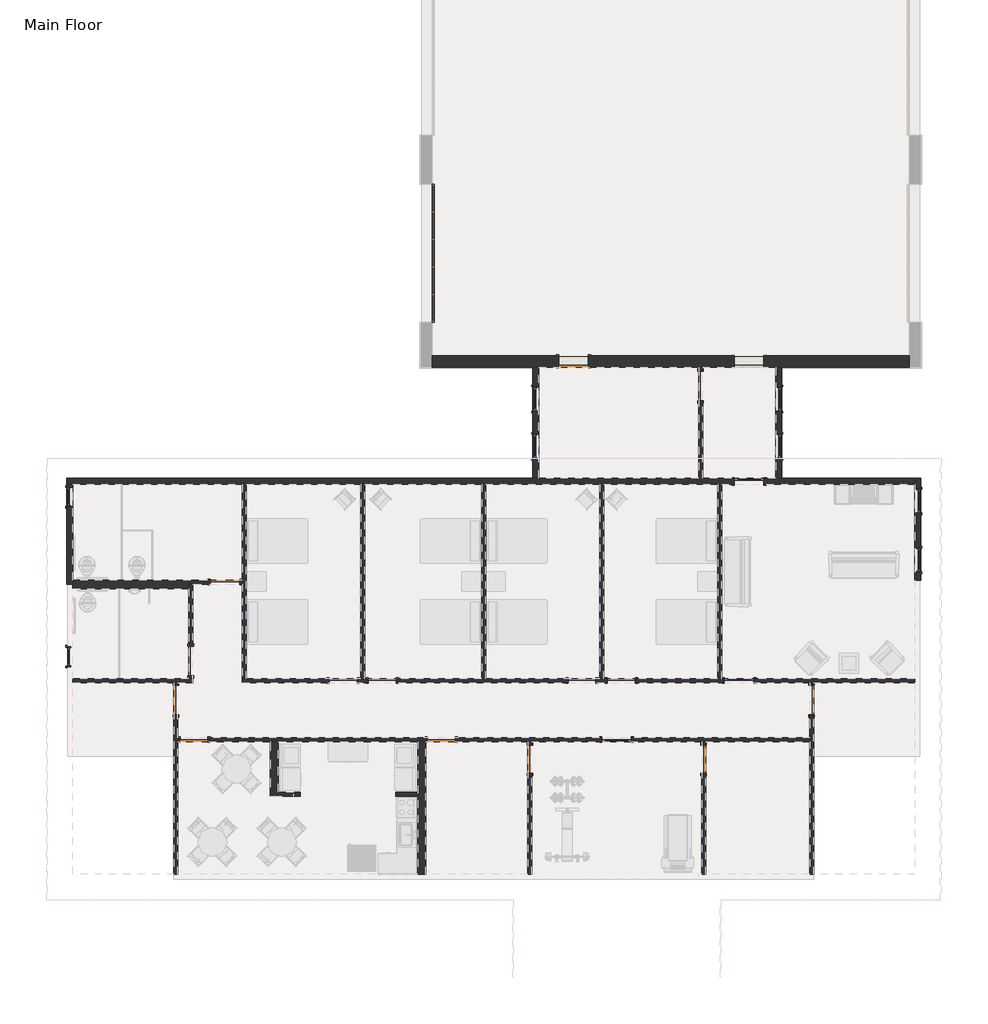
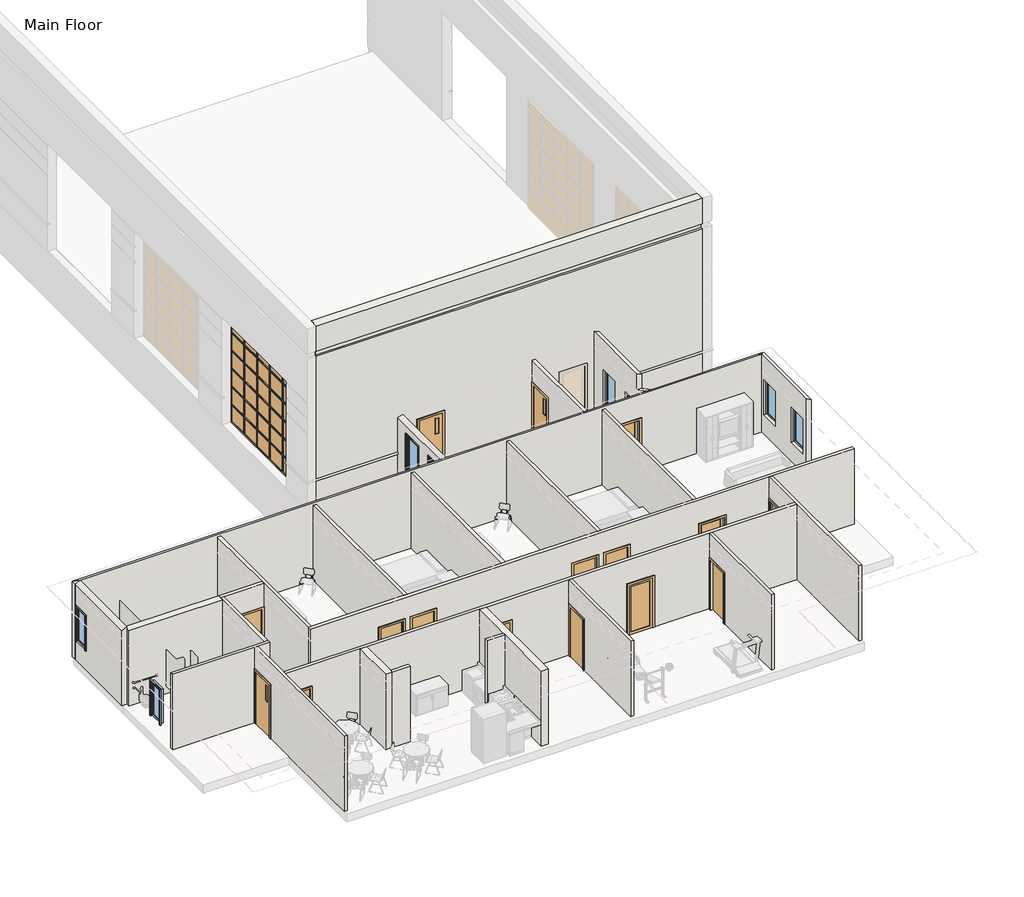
# One storey, part 1 of 3: 27 walls, 18 doors, 8 windows.
"""IFC4 building model written with IfcOpenShell, lengths in millimetres."""

from ifc_helpers import new_model, si_unit, frame, origin, place, context, project, spatial, polyline, outline, extrude, faceted_brep, transform, mapped, element, save
from components import overhead_sectional_glass_14_x_14_50861e5d, door_ecd1ec3f, door_2f6dbc15, door_7c9e1b45, door_3b0d1d25, door_0f3f7c0c, door_43f271b1, door_d6ecde1c, door_2a3d4b99, door_1467a2ec, door_29a6ff79, door_8812bb35, door_9b494dca, window_0248c27b, window_3b8f106a

model = new_model("IFC4")

# Units and contexts
model_context = context("Model", 3, world=origin())
ifc_project = project(units=[si_unit("LENGTHUNIT", "METRE", prefix="MILLI")], contexts=[model_context])

# Site, building, storey
site = spatial("IfcSite", under=ifc_project)
building = spatial("IfcBuilding", under=site)
storey = spatial("IfcBuildingStorey", under=building, Name="Main Floor", Elevation=42672.0)

# Doors
placement = place(None, origin())
overhead_sectional_glass_14_x_14_shape = overhead_sectional_glass_14_x_14_50861e5d(model_context)
element("IfcDoor", 1, ObjectType="Overhead-Sectional Glass : 14' x 14'", at=placement, inside=storey, context=model_context, shape_type="MappedRepresentation", body=[
    mapped(overhead_sectional_glass_14_x_14_shape, transform((-14673.2917336, 3387.6480156, 42672.0), x_axis=(0.0, -1.0, 0.0), y_axis=(1.0, 0.0, 0.0), z_axis=(0.0, 0.0, 1.0))),
])
door_shape = door_ecd1ec3f(model_context)
element("IfcDoor", 2, ObjectType="Single-Flush : 34\" x 80\"", at=placement, inside=storey, context=model_context, shape_type="MappedRepresentation", body=[
    mapped(door_shape, transform((-11472.8917336, -12298.4394844, 42672.0), x_axis=(0.0, 1.0, 0.0), y_axis=(-1.0, 0.0, 0.0), z_axis=(0.0, 0.0, 1.0))),
])
door_2_shape = door_2f6dbc15(model_context)
element("IfcDoor", 3, ObjectType="Single-Flush : 34\" x 80\"", at=placement, inside=storey, context=model_context, shape_type="MappedRepresentation", body=[
    mapped(door_2_shape, transform((-6088.0917336, -12298.4394844, 42672.0), x_axis=(0.0, 1.0, 0.0), y_axis=(-1.0, 0.0, 0.0), z_axis=(0.0, 0.0, 1.0))),
])
door_3_shape = door_7c9e1b45(model_context)
element("IfcDoor", 4, ObjectType="Single-Flush : 34\" x 84\"", at=placement, inside=storey, context=model_context, shape_type="MappedRepresentation", body=[
    mapped(door_3_shape, transform((-21886.8917336, -11688.8394844, 42672.0), x_axis=(-1.0, 0.0, 0.0), y_axis=(0.0, -1.0, 0.0), z_axis=(0.0, 0.0, 1.0))),
])
element("IfcDoor", 5, ObjectType="Single-Flush : 34\" x 84\"", at=placement, inside=storey, context=model_context, shape_type="MappedRepresentation", body=[
    mapped(door_3_shape, transform((-17264.0917336, -9860.0394844, 42672.0), x_axis=(1.0, 0.0, 0.0), y_axis=(0.0, 1.0, 0.0), z_axis=(0.0, 0.0, 1.0))),
])
element("IfcDoor", 6, ObjectType="Single-Flush : 34\" x 84\"", at=placement, inside=storey, context=model_context, shape_type="MappedRepresentation", body=[
    mapped(door_3_shape, transform((-9858.4042336, -9860.0394844, 42672.0), x_axis=(1.0, 0.0, 0.0), y_axis=(0.0, 1.0, 0.0), z_axis=(0.0, 0.0, 1.0))),
])
element("IfcDoor", 7, ObjectType="Single-Flush : 34\" x 84\"", at=placement, inside=storey, context=model_context, shape_type="MappedRepresentation", body=[
    mapped(door_3_shape, transform((-14216.0917336, -11688.8394844, 42672.0), x_axis=(-1.0, 0.0, 0.0), y_axis=(0.0, -1.0, 0.0), z_axis=(0.0, 0.0, 1.0))),
])
door_4_shape = door_3b0d1d25(model_context)
element("IfcDoor", 8, ObjectType="Single-Flush : 34\" x 84\"", at=placement, inside=storey, context=model_context, shape_type="MappedRepresentation", body=[
    mapped(door_4_shape, transform((-16044.8917336, -9860.0394844, 42672.0), x_axis=(-1.0, 0.0, 0.0), y_axis=(0.0, -1.0, 0.0), z_axis=(0.0, 0.0, 1.0))),
])
element("IfcDoor", 9, ObjectType="Single-Flush : 34\" x 84\"", at=placement, inside=storey, context=model_context, shape_type="MappedRepresentation", body=[
    mapped(door_4_shape, transform((-8639.2042336, -9860.0394844, 42672.0), x_axis=(-1.0, 0.0, 0.0), y_axis=(0.0, -1.0, 0.0), z_axis=(0.0, 0.0, 1.0))),
])
door_5_shape = door_0f3f7c0c(model_context)
element("IfcDoor", 10, ObjectType="Single-Flush : 36\" x 80\"", at=placement, inside=storey, context=model_context, shape_type="MappedRepresentation", body=[
    mapped(door_5_shape, transform((-21988.4917336, -9250.4394844, 42672.0), x_axis=(0.0, -1.0, 0.0), y_axis=(1.0, 0.0, 0.0), z_axis=(0.0, 0.0, 1.0))),
])
door_6_shape = door_43f271b1(model_context)
element("IfcDoor", 11, ObjectType="Single-Flush : 36\" x 80\"", at=placement, inside=storey, context=model_context, shape_type="MappedRepresentation", body=[
    mapped(door_6_shape, transform((-20921.6917336, -6808.8644844, 42672.0), x_axis=(1.0, 0.0, 0.0), y_axis=(0.0, 1.0, 0.0), z_axis=(0.0, 0.0, 1.0))),
])
door_7_shape = door_d6ecde1c(model_context)
element("IfcDoor", 12, ObjectType="Single-Flush Vision : 36\" x 84\"", at=placement, inside=storey, context=model_context, shape_type="MappedRepresentation", body=[
    mapped(door_7_shape, transform((-10120.3417336, 34.8480156, 42672.0), x_axis=(-1.0, 0.0, 0.0), y_axis=(0.0, -1.0, 0.0), z_axis=(0.0, 0.0, 1.0))),
])
door_8_shape = door_2a3d4b99(model_context)
element("IfcDoor", 13, ObjectType="Single-Flush Vision : 36\" x 84\"", at=placement, inside=storey, context=model_context, shape_type="MappedRepresentation", body=[
    mapped(door_8_shape, transform((-22445.6917336, -10469.6394844, 42672.0), x_axis=(0.0, 1.0, 0.0), y_axis=(-1.0, 0.0, 0.0), z_axis=(0.0, 0.0, 1.0))),
])
element("IfcDoor", 14, ObjectType="Single-Flush Vision : 36\" x 84\"", at=placement, inside=storey, context=model_context, shape_type="MappedRepresentation", body=[
    mapped(door_8_shape, transform((-6181.7542336, -727.1519844, 42672.0), x_axis=(0.0, 1.0, 0.0), y_axis=(-1.0, 0.0, 0.0), z_axis=(0.0, 0.0, 1.0))),
])
door_9_shape = door_1467a2ec(model_context)
element("IfcDoor", 15, ObjectType="Single-Flush Vision : 36\" x 84\"", at=placement, inside=storey, context=model_context, shape_type="MappedRepresentation", body=[
    mapped(door_9_shape, transform((-2735.2917336, -10469.6394844, 42672.0), x_axis=(0.0, 1.0, 0.0), y_axis=(-1.0, 0.0, 0.0), z_axis=(0.0, 0.0, 1.0))),
])
door_10_shape = door_29a6ff79(model_context)
element("IfcDoor", 16, ObjectType="Single-Glass 1 : 36\" x 80\"", at=placement, inside=storey, context=model_context, shape_type="MappedRepresentation", body=[
    mapped(door_10_shape, transform((-8780.4917336, -11688.8394844, 42672.0), x_axis=(-1.0, 0.0, 0.0), y_axis=(0.0, -1.0, 0.0), z_axis=(0.0, 0.0, 1.0))),
])
door_11_shape = door_8812bb35(model_context)
element("IfcDoor", 17, ObjectType="Single-Glass 1 : 36\" x 80\"", at=placement, inside=storey, context=model_context, shape_type="MappedRepresentation", body=[
    mapped(door_11_shape, transform((-4981.6042336, -9860.0394844, 42672.0), x_axis=(-1.0, 0.0, 0.0), y_axis=(0.0, -1.0, 0.0), z_axis=(0.0, 0.0, 1.0))),
])
door_12_shape = door_9b494dca(model_context)
element("IfcDoor", 18, ObjectType="Single-Glass 1 : 36\" x 84\"", at=placement, inside=storey, context=model_context, shape_type="MappedRepresentation", body=[
    mapped(door_12_shape, transform((-4676.8042336, -3684.6644844, 42672.0), x_axis=(-1.0, 0.0, 0.0), y_axis=(0.0, -1.0, 0.0), z_axis=(0.0, 0.0, 1.0))),
])

# Walls
element("IfcWall", 19, ObjectType="Exterior - Brick & CMU - No Reveals", at=placement, inside=storey, context=model_context, shape_type="Brep", body=[
    faceted_brep([(-14497.0792336, 211.0605156, 49987.2), (288.8957664, 211.0605156, 49987.2), (288.8957664, 211.0605156, 49314.1), (-14497.0792336, 211.0605156, 49314.1), (288.8957664, 211.0605156, 42672.0), (-4219.6042336, 211.0605156, 42672.0), (-4219.6042336, 211.0605156, 44805.6), (-5134.0042336, 211.0605156, 44805.6), (-5134.0042336, 211.0605156, 42672.0), (-9663.1417336, 211.0605156, 42672.0), (-9663.1417336, 211.0605156, 44805.6), (-10577.5417336, 211.0605156, 44805.6), (-10577.5417336, 211.0605156, 42672.0), (-14497.0792336, 211.0605156, 42672.0), (-14497.0792336, 211.0605156, 48768.0), (288.8957664, 211.0605156, 48768.0), (288.8957664, -141.3644844, 49987.2), (-14497.0792336, -141.3644844, 49987.2), (-14497.0792336, -141.3644844, 48971.2), (288.8957664, -141.3644844, 48971.2), (-4219.6042336, -141.3644844, 42672.0), (-3856.0667336, -141.3644844, 42672.0), (-3668.7417336, -141.3644844, 42672.0), (288.8957664, -141.3644844, 42672.0), (288.8957664, -141.3644844, 43738.8), (-3668.7417336, -141.3644844, 43738.8), (-3668.7417336, -141.3644844, 43808.65), (288.8957664, -141.3644844, 43808.65), (288.8957664, -141.3644844, 48768.0), (-14497.0792336, -141.3644844, 48768.0), (-14497.0792336, -141.3644844, 43808.65), (-11379.2292336, -141.3644844, 43808.65), (-11379.2292336, -141.3644844, 43738.8), (-14497.0792336, -141.3644844, 43738.8), (-14497.0792336, -141.3644844, 42672.0), (-11379.2292336, -141.3644844, 42672.0), (-11191.9042336, -141.3644844, 42672.0), (-10577.5417336, -141.3644844, 42672.0), (-10577.5417336, -141.3644844, 44805.6), (-9663.1417336, -141.3644844, 44805.6), (-9663.1417336, -141.3644844, 42672.0), (-6243.6667336, -141.3644844, 42672.0), (-6119.8417336, -141.3644844, 42672.0), (-5134.0042336, -141.3644844, 42672.0), (-5134.0042336, -141.3644844, 44805.6), (-4219.6042336, -141.3644844, 44805.6), (-14497.0792336, 45.9605156, 49314.1), (-14497.0792336, 45.9605156, 48768.0), (-14497.0792336, -49.2894844, 42672.0), (-14497.0792336, -49.2894844, 43738.8), (-14497.0792336, -49.2894844, 43808.65), (-14497.0792336, -65.1644844, 48768.0), (-14497.0792336, -65.1644844, 48971.2), (288.8957664, -65.1644844, 48971.2), (288.8957664, -65.1644844, 48768.0), (288.8957664, -49.2894844, 43808.65), (288.8957664, -49.2894844, 43738.8), (288.8957664, -49.2894844, 42672.0), (288.8957664, 45.9605156, 48768.0), (288.8957664, 45.9605156, 49314.1), (-10577.5417336, -49.2894844, 42672.0), (-4219.6042336, -49.2894844, 42672.0), (-5134.0042336, -49.2894844, 42672.0), (-9663.1417336, -49.2894844, 42672.0), (-3668.7417336, -49.2894844, 43808.65), (-3668.7417336, -49.2894844, 43738.8), (-11379.2292336, -49.2894844, 43808.65), (-11379.2292336, -49.2894844, 43738.8)], [[[0, 1, 2, 3]], [[4, 5, 6, 7, 8, 9, 10, 11, 12, 13, 14, 15]], [[16, 17, 18, 19]], [[20, 21, 22, 23, 24, 25, 26, 27, 28, 29, 30, 31, 32, 33, 34, 35, 36, 37, 38, 39, 40, 41, 42, 43, 44, 45]], [[1, 0, 17, 16]], [[17, 0, 3, 46, 47, 14, 13, 48, 34, 33, 49, 50, 30, 29, 51, 52, 18]], [[1, 16, 19, 53, 54, 28, 27, 55, 56, 24, 23, 57, 4, 15, 58, 59, 2]], [[48, 13, 12, 60]], [[4, 57, 61, 5]], [[8, 62, 63, 9]], [[57, 23, 22, 21, 20, 61]], [[34, 48, 60, 37, 36, 35]], [[62, 43, 42, 41, 40, 63]], [[45, 6, 5, 61, 20]], [[6, 45, 44, 7]], [[7, 44, 43, 62, 8]], [[11, 38, 37, 60, 12]], [[38, 11, 10, 39]], [[39, 10, 9, 63, 40]], [[54, 51, 29, 28]], [[52, 53, 19, 18]], [[53, 52, 51, 54]], [[26, 64, 55, 27]], [[65, 25, 24, 56]], [[64, 26, 25, 65]], [[64, 65, 56, 55]], [[31, 66, 67, 32]], [[66, 31, 30, 50]], [[67, 49, 33, 32]], [[67, 66, 50, 49]], [[59, 46, 3, 2]], [[47, 58, 15, 14]], [[46, 59, 58, 47]]]),
])
element("IfcWall", 20, ObjectType="Exterior - Siding", at=placement, inside=storey, context=model_context, shape_type="Brep", body=[
    faceted_brep([(-25830.2417336, -3778.3269844, 42672.0), (-25642.9167336, -3778.3269844, 42672.0), (-20385.1167336, -3778.3269844, 42672.0), (-20261.2917336, -3778.3269844, 42672.0), (-16716.4042336, -3778.3269844, 42672.0), (-16592.5792336, -3778.3269844, 42672.0), (-12968.3167336, -3778.3269844, 42672.0), (-12844.4917336, -3778.3269844, 42672.0), (-9310.7167336, -3778.3269844, 42672.0), (-9186.8917336, -3778.3269844, 42672.0), (-5653.1167336, -3778.3269844, 42672.0), (-5529.2917336, -3778.3269844, 42672.0), (-5134.0042336, -3778.3269844, 42672.0), (-5134.0042336, -3778.3269844, 44805.6), (-4219.6042336, -3778.3269844, 44805.6), (-4219.6042336, -3778.3269844, 42672.0), (461.9332664, -3778.3269844, 42672.0), (461.9332664, -3778.3269844, 45813.6625), (-25642.9167336, -3778.3269844, 45813.6625), (-25830.2417336, -3778.3269844, 45720.0), (-5134.0042336, -3591.0019844, 44805.6), (-5134.0042336, -3591.0019844, 42672.0), (-6119.8417336, -3591.0019844, 42672.0), (-6243.6667336, -3591.0019844, 42672.0), (-11191.9042336, -3591.0019844, 42672.0), (-11379.2292336, -3591.0019844, 42672.0), (-25830.2417336, -3591.0019844, 42672.0), (-25830.2417336, -3591.0019844, 45720.0), (-3856.0667336, -3591.0019844, 45720.0), (-3668.7417336, -3591.0019844, 45720.0), (461.9332664, -3591.0019844, 45720.0), (461.9332664, -3591.0019844, 42672.0), (-3668.7417336, -3591.0019844, 42672.0), (-3856.0667336, -3591.0019844, 42672.0), (-4219.6042336, -3591.0019844, 42672.0), (-4219.6042336, -3591.0019844, 44805.6)], [[[0, 1, 2, 3, 4, 5, 6, 7, 8, 9, 10, 11, 12, 13, 14, 15, 16, 17, 18, 19]], [[20, 21, 22, 23, 24, 25, 26, 27, 28, 29, 30, 31, 32, 33, 34, 35]], [[26, 25, 24, 23, 22, 21, 12, 11, 10, 9, 8, 7, 6, 5, 4, 3, 2, 1, 0]], [[34, 33, 32, 31, 16, 15]], [[0, 19, 27, 26]], [[17, 16, 31, 30]], [[19, 18, 27]], [[18, 17, 30, 29, 28, 27]], [[13, 12, 21, 20]], [[14, 13, 20, 35]], [[15, 14, 35, 34]]]),
])
element("IfcWall", 21, ObjectType="Exterior - Siding", at=placement, inside=storey, context=model_context, shape_type="Brep", body=[
    faceted_brep([(461.9332664, -3591.0019844, 42672.0), (461.9332664, -3778.3269844, 42672.0), (461.9332664, -6746.9519844, 42672.0), (461.9332664, -6746.9519844, 45813.6625), (461.9332664, -3778.3269844, 45813.6625), (461.9332664, -3591.0019844, 45720.0), (461.9332664, -4675.2644844, 44869.1), (461.9332664, -4675.2644844, 43453.05), (461.9332664, -3913.2644844, 43453.05), (461.9332664, -3913.2644844, 44869.1), (461.9332664, -6504.0644844, 44869.1), (461.9332664, -6504.0644844, 43453.05), (461.9332664, -5742.0644844, 43453.05), (461.9332664, -5742.0644844, 44869.1), (649.2582664, -3591.0019844, 42672.0), (649.2582664, -3591.0019844, 45720.0), (649.2582664, -6746.9519844, 45720.0), (649.2582664, -6746.9519844, 42672.0), (649.2582664, -4675.2644844, 44869.1), (649.2582664, -3913.2644844, 44869.1), (649.2582664, -3913.2644844, 43453.05), (649.2582664, -4675.2644844, 43453.05), (649.2582664, -6504.0644844, 44869.1), (649.2582664, -5742.0644844, 44869.1), (649.2582664, -5742.0644844, 43453.05), (649.2582664, -6504.0644844, 43453.05)], [[[0, 1, 2, 3, 4, 5], [6, 7, 8, 9], [10, 11, 12, 13]], [[14, 15, 16, 17], [18, 19, 20, 21], [22, 23, 24, 25]], [[2, 1, 0, 14, 17]], [[3, 2, 17, 16]], [[0, 5, 15, 14]], [[5, 4, 15]], [[4, 3, 16, 15]], [[7, 6, 18, 21]], [[8, 7, 21, 20]], [[9, 8, 20, 19]], [[6, 9, 19, 18]], [[11, 10, 22, 25]], [[12, 11, 25, 24]], [[13, 12, 24, 23]], [[10, 13, 23, 22]]]),
])
element("IfcWall", 22, ObjectType="Exterior - Siding", at=placement, inside=storey, context=model_context, shape_type="Brep", body=[
    faceted_brep([(-25642.9167336, -6877.1269844, 42672.0), (-25642.9167336, -6746.9519844, 42672.0), (-25642.9167336, -3778.3269844, 42672.0), (-25642.9167336, -3778.3269844, 45813.6625), (-25642.9167336, -6877.1269844, 45813.6625), (-25642.9167336, -3859.2894844, 44869.1), (-25642.9167336, -3859.2894844, 43453.05), (-25642.9167336, -4468.8894844, 43453.05), (-25642.9167336, -4468.8894844, 44869.1), (-25830.2417336, -6877.1269844, 42672.0), (-25830.2417336, -6877.1269844, 45720.0), (-25830.2417336, -3778.3269844, 45720.0), (-25830.2417336, -3778.3269844, 42672.0), (-25830.2417336, -3859.2894844, 44869.1), (-25830.2417336, -4468.8894844, 44869.1), (-25830.2417336, -4468.8894844, 43453.05), (-25830.2417336, -3859.2894844, 43453.05)], [[[0, 1, 2, 3, 4], [5, 6, 7, 8]], [[9, 10, 11, 12], [13, 14, 15, 16]], [[2, 1, 0, 9, 12]], [[0, 4, 10, 9]], [[3, 2, 12, 11]], [[4, 3, 11, 10]], [[6, 5, 13, 16]], [[7, 6, 16, 15]], [[8, 7, 15, 14]], [[5, 8, 14, 13]]]),
])
element("IfcWall", 23, ObjectType="Exterior - Siding", at=placement, inside=storey, context=model_context, shape_type="Brep", body=[
    faceted_brep([(-11191.9042336, -3591.0019844, 42672.0), (-11191.9042336, -141.3644844, 42672.0), (-11191.9042336, -141.3644844, 45263.215222), (-11191.9042336, -3591.0019844, 45263.215222), (-11191.9042336, -2219.4019844, 44869.1), (-11191.9042336, -2219.4019844, 43453.05), (-11191.9042336, -2981.4019844, 43453.05), (-11191.9042336, -2981.4019844, 44869.1), (-11191.9042336, -750.9644844, 44869.1), (-11191.9042336, -750.9644844, 43453.05), (-11191.9042336, -1512.9644844, 43453.05), (-11191.9042336, -1512.9644844, 44869.1), (-11379.2292336, -141.3644844, 42672.0), (-11379.2292336, -3591.0019844, 42672.0), (-11379.2292336, -3591.0019844, 45197.5831052), (-11379.2292336, -141.3644844, 45197.5831052), (-11379.2292336, -141.3644844, 43808.65), (-11379.2292336, -141.3644844, 43738.8), (-11379.2292336, -2219.4019844, 43453.05), (-11379.2292336, -2219.4019844, 44869.1), (-11379.2292336, -2981.4019844, 44869.1), (-11379.2292336, -2981.4019844, 43453.05), (-11379.2292336, -750.9644844, 43453.05), (-11379.2292336, -750.9644844, 44869.1), (-11379.2292336, -1512.9644844, 44869.1), (-11379.2292336, -1512.9644844, 43453.05)], [[[0, 1, 2, 3], [4, 5, 6, 7], [8, 9, 10, 11]], [[12, 13, 14, 15, 16, 17], [18, 19, 20, 21], [22, 23, 24, 25]], [[1, 0, 13, 12]], [[0, 3, 14, 13]], [[2, 1, 12, 17, 16, 15]], [[3, 2, 15, 14]], [[4, 19, 18, 5]], [[5, 18, 21, 6]], [[6, 21, 20, 7]], [[19, 4, 7, 20]], [[8, 23, 22, 9]], [[9, 22, 25, 10]], [[10, 25, 24, 11]], [[23, 8, 11, 24]]]),
])
element("IfcWall", 24, ObjectType="Exterior - Siding", at=placement, inside=storey, context=model_context, shape_type="Brep", body=[
    faceted_brep([(-3856.0667336, -141.3644844, 42672.0), (-3856.0667336, -3591.0019844, 42672.0), (-3856.0667336, -3591.0019844, 45720.0), (-3856.0667336, -2981.4019844, 45415.2), (-3856.0667336, -2981.4019844, 46059.4130715), (-3856.0667336, -141.3644844, 46059.4130715), (-3856.0667336, -2981.4019844, 44869.1), (-3856.0667336, -2981.4019844, 43453.05), (-3856.0667336, -2219.4019844, 43453.05), (-3856.0667336, -2219.4019844, 44869.1), (-3856.0667336, -1512.9644844, 44869.1), (-3856.0667336, -1512.9644844, 43453.05), (-3856.0667336, -750.9644844, 43453.05), (-3856.0667336, -750.9644844, 44869.1), (-3668.7417336, -3591.0019844, 42672.0), (-3668.7417336, -141.3644844, 42672.0), (-3668.7417336, -141.3644844, 43738.8), (-3668.7417336, -141.3644844, 43808.65), (-3668.7417336, -141.3644844, 45982.5207145), (-3668.7417336, -2981.4019844, 45982.5207145), (-3668.7417336, -2981.4019844, 45415.2), (-3668.7417336, -3591.0019844, 45720.0), (-3668.7417336, -2981.4019844, 43453.05), (-3668.7417336, -2981.4019844, 44869.1), (-3668.7417336, -2219.4019844, 44869.1), (-3668.7417336, -2219.4019844, 43453.05), (-3668.7417336, -1512.9644844, 43453.05), (-3668.7417336, -1512.9644844, 44869.1), (-3668.7417336, -750.9644844, 44869.1), (-3668.7417336, -750.9644844, 43453.05)], [[[0, 1, 2, 3, 4, 5], [6, 7, 8, 9], [10, 11, 12, 13]], [[14, 15, 16, 17, 18, 19, 20, 21], [22, 23, 24, 25], [26, 27, 28, 29]], [[1, 0, 15, 14]], [[2, 1, 14, 21]], [[0, 5, 18, 17, 16, 15]], [[4, 3, 20, 19]], [[3, 2, 21, 20]], [[5, 4, 19, 18]], [[6, 23, 22, 7]], [[7, 22, 25, 8]], [[8, 25, 24, 9]], [[23, 6, 9, 24]], [[10, 27, 26, 11]], [[11, 26, 29, 12]], [[12, 29, 28, 13]], [[27, 10, 13, 28]]]),
])
element("IfcWall", 25, ObjectType="Foundation - 12\" Concrete", at=placement, inside=storey, context=model_context, shape_type="Brep", body=[
    faceted_brep([(312.7082664, 187.2480156, 40690.8), (-296.8917336, 187.2480156, 40690.8), (-6799.2917336, 187.2480156, 40690.8), (-7408.8917336, 187.2480156, 40690.8), (-13911.2917336, 187.2480156, 40690.8), (-14520.8917336, 187.2480156, 40690.8), (-14520.8917336, 187.2480156, 42367.2), (-14520.8917336, 187.2480156, 42672.0), (312.7082664, 187.2480156, 42672.0), (312.7082664, 187.2480156, 42367.2), (312.7082664, -117.5519844, 40690.8), (312.7082664, -117.5519844, 42672.0), (-14520.8917336, -117.5519844, 42672.0), (-14520.8917336, -117.5519844, 40690.8)], [[[0, 1, 2, 3, 4, 5, 6, 7, 8, 9]], [[10, 11, 12, 13]], [[5, 4, 3, 2, 1, 0, 10, 13]], [[8, 7, 12, 11]], [[0, 9, 8, 11, 10]], [[7, 6, 5, 13, 12]]]),
])
element("IfcWall", 26, ObjectType="Generic - 5\"", at=placement, inside=storey, context=model_context, shape_type="SweptSolid", body=[
    extrude(outline(polyline([(-15638.4917336, -13327.1394844), (-14955.8667336, -13327.1394844), (-14955.8667336, -13454.1394844), (-15638.4917336, -13454.1394844), (-15638.4917336, -13327.1394844)])), frame((0.0, 0.0, 42672.0), z_axis=(0.0, 0.0, 1.0), x_axis=(1.0, 0.0, 0.0)), (0.0, 0.0, 1.0), 3048.0),
])
element("IfcWall", 27, ObjectType="Interior - 4 7/8\" Partition (1-hr)", at=placement, inside=storey, context=model_context, shape_type="Brep", body=[
    faceted_brep([(-5438.8042336, -9798.1269844, 44704.0), (-5438.8042336, -9798.1269844, 42672.0), (-5529.2917336, -9798.1269844, 42672.0), (-5653.1167336, -9798.1269844, 42672.0), (-8207.4042336, -9798.1269844, 42672.0), (-8207.4042336, -9798.1269844, 44805.6), (-9071.0042336, -9798.1269844, 44805.6), (-9071.0042336, -9798.1269844, 42672.0), (-9186.8917336, -9798.1269844, 42672.0), (-9310.7167336, -9798.1269844, 42672.0), (-9426.6042336, -9798.1269844, 42672.0), (-9426.6042336, -9798.1269844, 44805.6), (-10290.2042336, -9798.1269844, 44805.6), (-10290.2042336, -9798.1269844, 42672.0), (-12844.4917336, -9798.1269844, 42672.0), (-12968.3167336, -9798.1269844, 42672.0), (-15613.0917336, -9798.1269844, 42672.0), (-15613.0917336, -9798.1269844, 44805.6), (-16476.6917336, -9798.1269844, 44805.6), (-16476.6917336, -9798.1269844, 42672.0), (-16592.5792336, -9798.1269844, 42672.0), (-16716.4042336, -9798.1269844, 42672.0), (-16832.2917336, -9798.1269844, 42672.0), (-16832.2917336, -9798.1269844, 44805.6), (-17695.8917336, -9798.1269844, 44805.6), (-17695.8917336, -9798.1269844, 42672.0), (-20261.2917336, -9798.1269844, 42672.0), (-20385.1167336, -9798.1269844, 42672.0), (-20385.1167336, -9798.1269844, 45720.0), (-20261.2917336, -9798.1269844, 45720.0), (-16716.4042336, -9798.1269844, 45720.0), (-16592.5792336, -9798.1269844, 45720.0), (-12968.3167336, -9798.1269844, 45720.0), (-12844.4917336, -9798.1269844, 45720.0), (-9310.7167336, -9798.1269844, 45720.0), (-9186.8917336, -9798.1269844, 45720.0), (-5653.1167336, -9798.1269844, 45720.0), (-5529.2917336, -9798.1269844, 45720.0), (461.9332664, -9798.1269844, 45720.0), (461.9332664, -9798.1269844, 42672.0), (-4524.4042336, -9798.1269844, 42672.0), (-4524.4042336, -9798.1269844, 44704.0), (-8207.4042336, -9921.9519844, 42672.0), (-5438.8042336, -9921.9519844, 42672.0), (-5438.8042336, -9921.9519844, 44704.0), (-4524.4042336, -9921.9519844, 44704.0), (-4524.4042336, -9921.9519844, 42672.0), (-2797.2042336, -9921.9519844, 42672.0), (-2673.3792336, -9921.9519844, 42672.0), (461.9332664, -9921.9519844, 42672.0), (461.9332664, -9921.9519844, 45720.0), (-2673.3792336, -9921.9519844, 45720.0), (-2797.2042336, -9921.9519844, 45720.0), (-20385.1167336, -9921.9519844, 45720.0), (-20385.1167336, -9921.9519844, 42672.0), (-17695.8917336, -9921.9519844, 42672.0), (-17695.8917336, -9921.9519844, 44805.6), (-16832.2917336, -9921.9519844, 44805.6), (-16832.2917336, -9921.9519844, 42672.0), (-16476.6917336, -9921.9519844, 42672.0), (-16476.6917336, -9921.9519844, 44805.6), (-15613.0917336, -9921.9519844, 44805.6), (-15613.0917336, -9921.9519844, 42672.0), (-10290.2042336, -9921.9519844, 42672.0), (-10290.2042336, -9921.9519844, 44805.6), (-9426.6042336, -9921.9519844, 44805.6), (-9426.6042336, -9921.9519844, 42672.0), (-9071.0042336, -9921.9519844, 42672.0), (-9071.0042336, -9921.9519844, 44805.6), (-8207.4042336, -9921.9519844, 44805.6)], [[[0, 1, 2, 3, 4, 5, 6, 7, 8, 9, 10, 11, 12, 13, 14, 15, 16, 17, 18, 19, 20, 21, 22, 23, 24, 25, 26, 27, 28, 29, 30, 31, 32, 33, 34, 35, 36, 37, 38, 39, 40, 41]], [[42, 43, 44, 45, 46, 47, 48, 49, 50, 51, 52, 53, 54, 55, 56, 57, 58, 59, 60, 61, 62, 63, 64, 65, 66, 67, 68, 69]], [[22, 21, 20, 19, 59, 58]], [[55, 54, 27, 26, 25]], [[10, 9, 8, 7, 67, 66]], [[63, 62, 16, 15, 14, 13]], [[4, 3, 2, 1, 43, 42]], [[40, 39, 49, 48, 47, 46]], [[38, 37, 36, 35, 34, 33, 32, 31, 30, 29, 28, 53, 52, 51, 50]], [[28, 27, 54, 53]], [[39, 38, 50, 49]], [[23, 22, 58, 57]], [[24, 23, 57, 56]], [[25, 24, 56, 55]], [[60, 59, 19, 18]], [[61, 60, 18, 17]], [[62, 61, 17, 16]], [[11, 10, 66, 65]], [[12, 11, 65, 64]], [[13, 12, 64, 63]], [[68, 67, 7, 6]], [[69, 68, 6, 5]], [[42, 69, 5, 4]], [[44, 43, 1, 0]], [[45, 44, 0, 41]], [[46, 45, 41, 40]]]),
])
element("IfcWall", 28, ObjectType="Interior - 4 7/8\" Partition (1-hr)", at=placement, inside=storey, context=model_context, shape_type="Brep", body=[
    faceted_brep([(-20261.2917336, -9798.1269844, 42672.0), (-20261.2917336, -3778.3269844, 42672.0), (-20261.2917336, -3778.3269844, 45720.0), (-20261.2917336, -9798.1269844, 45720.0), (-20385.1167336, -9798.1269844, 42672.0), (-20385.1167336, -9798.1269844, 45720.0), (-20385.1167336, -6870.7769844, 45720.0), (-20385.1167336, -6746.9519844, 45720.0), (-20385.1167336, -3778.3269844, 45720.0), (-20385.1167336, -3778.3269844, 42672.0), (-20385.1167336, -6746.9519844, 42672.0), (-20385.1167336, -6870.7769844, 42672.0)], [[[0, 1, 2, 3]], [[4, 5, 6, 7, 8, 9, 10, 11]], [[1, 0, 4, 11, 10, 9]], [[3, 2, 8, 7, 6, 5]], [[0, 3, 5, 4]], [[2, 1, 9, 8]]]),
])
element("IfcWall", 29, ObjectType="Interior - 4 7/8\" Partition (1-hr)", at=placement, inside=storey, context=model_context, shape_type="Brep", body=[
    faceted_brep([(-22507.6042336, -9921.9519844, 42672.0), (-22507.6042336, -10012.4394844, 42672.0), (-22507.6042336, -10012.4394844, 44805.6), (-22507.6042336, -10926.8394844, 44805.6), (-22507.6042336, -10926.8394844, 42672.0), (-22507.6042336, -15862.3769844, 42672.0), (-22507.6042336, -15862.3769844, 45720.0), (-22507.6042336, -9921.9519844, 45720.0), (-22383.7792336, -10012.4394844, 44805.6), (-22383.7792336, -10012.4394844, 42672.0), (-22383.7792336, -9921.9519844, 42672.0), (-22383.7792336, -9921.9519844, 45720.0), (-22383.7792336, -11626.9269844, 45720.0), (-22383.7792336, -11750.7519844, 45720.0), (-22383.7792336, -15862.3769844, 45720.0), (-22383.7792336, -15862.3769844, 42672.0), (-22383.7792336, -11750.7519844, 42672.0), (-22383.7792336, -11626.9269844, 42672.0), (-22383.7792336, -10926.8394844, 42672.0), (-22383.7792336, -10926.8394844, 44805.6)], [[[0, 1, 2, 3, 4, 5, 6, 7]], [[8, 9, 10, 11, 12, 13, 14, 15, 16, 17, 18, 19]], [[10, 9, 1, 0]], [[18, 17, 16, 15, 5, 4]], [[7, 6, 14, 13, 12, 11]], [[6, 5, 15, 14]], [[0, 7, 11, 10]], [[2, 1, 9, 8]], [[3, 2, 8, 19]], [[4, 3, 19, 18]]]),
])
element("IfcWall", 30, ObjectType="Interior - 4 7/8\" Partition (1-hr)", at=placement, inside=storey, context=model_context, shape_type="Brep", body=[
    faceted_brep([(-2673.3792336, -10012.4394844, 44805.6), (-2673.3792336, -10012.4394844, 42672.0), (-2673.3792336, -9921.9519844, 42672.0), (-2673.3792336, -9921.9519844, 45720.0), (-2673.3792336, -15862.3769844, 45720.0), (-2673.3792336, -15862.3769844, 42672.0), (-2673.3792336, -10926.8394844, 42672.0), (-2673.3792336, -10926.8394844, 44805.6), (-2797.2042336, -9921.9519844, 42672.0), (-2797.2042336, -10012.4394844, 42672.0), (-2797.2042336, -10012.4394844, 44805.6), (-2797.2042336, -10926.8394844, 44805.6), (-2797.2042336, -10926.8394844, 42672.0), (-2797.2042336, -11626.9269844, 42672.0), (-2797.2042336, -11750.7519844, 42672.0), (-2797.2042336, -15862.3769844, 42672.0), (-2797.2042336, -15862.3769844, 45720.0), (-2797.2042336, -11750.7519844, 45720.0), (-2797.2042336, -11626.9269844, 45720.0), (-2797.2042336, -9921.9519844, 45720.0)], [[[0, 1, 2, 3, 4, 5, 6, 7]], [[8, 9, 10, 11, 12, 13, 14, 15, 16, 17, 18, 19]], [[2, 1, 9, 8]], [[6, 5, 15, 14, 13, 12]], [[4, 3, 19, 18, 17, 16]], [[5, 4, 16, 15]], [[3, 2, 8, 19]], [[10, 9, 1, 0]], [[11, 10, 0, 7]], [[12, 11, 7, 6]]]),
])
element("IfcWall", 31, ObjectType="Interior - 4 7/8\" Partition (1-hr)", at=placement, inside=storey, context=model_context, shape_type="Brep", body=[
    faceted_brep([(-9237.6917336, -11626.9269844, 44704.0), (-9237.6917336, -11626.9269844, 42672.0), (-13784.2917336, -11626.9269844, 42672.0), (-13784.2917336, -11626.9269844, 44805.6), (-14647.8917336, -11626.9269844, 44805.6), (-14647.8917336, -11626.9269844, 42672.0), (-21455.0917336, -11626.9269844, 42672.0), (-21455.0917336, -11626.9269844, 44805.6), (-22318.6917336, -11626.9269844, 44805.6), (-22318.6917336, -11626.9269844, 42672.0), (-22383.7792336, -11626.9269844, 42672.0), (-22383.7792336, -11626.9269844, 45720.0), (-2797.2042336, -11626.9269844, 45720.0), (-2797.2042336, -11626.9269844, 42672.0), (-8323.2917336, -11626.9269844, 42672.0), (-8323.2917336, -11626.9269844, 44704.0), (-13784.2917336, -11750.7519844, 42672.0), (-11534.8042336, -11750.7519844, 42672.0), (-11410.9792336, -11750.7519844, 42672.0), (-9237.6917336, -11750.7519844, 42672.0), (-9237.6917336, -11750.7519844, 44704.0), (-8323.2917336, -11750.7519844, 44704.0), (-8323.2917336, -11750.7519844, 42672.0), (-6150.0042336, -11750.7519844, 42672.0), (-6026.1792336, -11750.7519844, 42672.0), (-2797.2042336, -11750.7519844, 42672.0), (-2797.2042336, -11750.7519844, 45720.0), (-6026.1792336, -11750.7519844, 45720.0), (-6150.0042336, -11750.7519844, 45720.0), (-11410.9792336, -11750.7519844, 45720.0), (-11534.8042336, -11750.7519844, 45720.0), (-14695.5167336, -11750.7519844, 45720.0), (-14955.8667336, -11750.7519844, 45720.0), (-19267.5167336, -11750.7519844, 45720.0), (-19527.8667336, -11750.7519844, 45720.0), (-22383.7792336, -11750.7519844, 45720.0), (-22383.7792336, -11750.7519844, 42672.0), (-22318.6917336, -11750.7519844, 42672.0), (-22318.6917336, -11750.7519844, 44805.6), (-21455.0917336, -11750.7519844, 44805.6), (-21455.0917336, -11750.7519844, 42672.0), (-19527.8667336, -11750.7519844, 42672.0), (-19267.5167336, -11750.7519844, 42672.0), (-14955.8667336, -11750.7519844, 42672.0), (-14695.5167336, -11750.7519844, 42672.0), (-14647.8917336, -11750.7519844, 42672.0), (-14647.8917336, -11750.7519844, 44805.6), (-13784.2917336, -11750.7519844, 44805.6)], [[[0, 1, 2, 3, 4, 5, 6, 7, 8, 9, 10, 11, 12, 13, 14, 15]], [[16, 17, 18, 19, 20, 21, 22, 23, 24, 25, 26, 27, 28, 29, 30, 31, 32, 33, 34, 35, 36, 37, 38, 39, 40, 41, 42, 43, 44, 45, 46, 47]], [[10, 9, 37, 36]], [[6, 5, 45, 44, 43, 42, 41, 40]], [[2, 1, 19, 18, 17, 16]], [[14, 13, 25, 24, 23, 22]], [[12, 11, 35, 34, 33, 32, 31, 30, 29, 28, 27, 26]], [[11, 10, 36, 35]], [[13, 12, 26, 25]], [[38, 37, 9, 8]], [[39, 38, 8, 7]], [[40, 39, 7, 6]], [[46, 45, 5, 4]], [[47, 46, 4, 3]], [[16, 47, 3, 2]], [[20, 19, 1, 0]], [[21, 20, 0, 15]], [[22, 21, 15, 14]]]),
])
element("IfcWall", 32, ObjectType="Interior - 4 7/8\" Partition (1-hr)", at=placement, inside=storey, context=model_context, shape_type="SweptSolid", body=[
    extrude(outline(polyline([(-11750.7519844, 42672.0), (-11866.6394844, 42672.0), (-11866.6394844, 44704.0), (-12730.2394844, 44704.0), (-12730.2394844, 42672.0), (-15862.3769844, 42672.0), (-15862.3769844, 45720.0), (-11750.7519844, 45720.0), (-11750.7519844, 42672.0)])), frame((-6150.0042336, 0.0, 0.0), z_axis=(1.0, 0.0, 0.0), x_axis=(0.0, 1.0, 0.0)), (0.0, 0.0, 1.0), 123.825),
])
element("IfcWall", 33, ObjectType="Interior - 4 7/8\" Partition (1-hr)", at=placement, inside=storey, context=model_context, shape_type="SweptSolid", body=[
    extrude(outline(polyline([(-5529.2917336, -3778.3269844), (-5529.2917336, -9798.1269844), (-5653.1167336, -9798.1269844), (-5653.1167336, -3778.3269844), (-5529.2917336, -3778.3269844)])), frame((0.0, 0.0, 42672.0), z_axis=(0.0, 0.0, 1.0), x_axis=(1.0, 0.0, 0.0)), (0.0, 0.0, 1.0), 3048.0),
])
element("IfcWall", 34, ObjectType="Interior - 4 7/8\" Partition (1-hr)", at=placement, inside=storey, context=model_context, shape_type="SweptSolid", body=[
    extrude(outline(polyline([(-9186.8917336, -3778.3269844), (-9186.8917336, -9798.1269844), (-9310.7167336, -9798.1269844), (-9310.7167336, -3778.3269844), (-9186.8917336, -3778.3269844)])), frame((0.0, 0.0, 42672.0), z_axis=(0.0, 0.0, 1.0), x_axis=(1.0, 0.0, 0.0)), (0.0, 0.0, 1.0), 3048.0),
])
element("IfcWall", 35, ObjectType="Interior - 4 7/8\" Partition (1-hr)", at=placement, inside=storey, context=model_context, shape_type="SweptSolid", body=[
    extrude(outline(polyline([(-12844.4917336, -3778.3269844), (-12844.4917336, -9798.1269844), (-12968.3167336, -9798.1269844), (-12968.3167336, -3778.3269844), (-12844.4917336, -3778.3269844)])), frame((0.0, 0.0, 42672.0), z_axis=(0.0, 0.0, 1.0), x_axis=(1.0, 0.0, 0.0)), (0.0, 0.0, 1.0), 3048.0),
])
element("IfcWall", 36, ObjectType="Interior - 4 7/8\" Partition (1-hr)", at=placement, inside=storey, context=model_context, shape_type="SweptSolid", body=[
    extrude(outline(polyline([(-16592.5792336, -3778.3269844), (-16592.5792336, -9798.1269844), (-16716.4042336, -9798.1269844), (-16716.4042336, -3778.3269844), (-16592.5792336, -3778.3269844)])), frame((0.0, 0.0, 42672.0), z_axis=(0.0, 0.0, 1.0), x_axis=(1.0, 0.0, 0.0)), (0.0, 0.0, 1.0), 3048.0),
])
element("IfcWall", 37, ObjectType="Interior - 4 7/8\" Partition (1-hr)", at=placement, inside=storey, context=model_context, shape_type="SweptSolid", body=[
    extrude(outline(polyline([(-11750.7519844, 42672.0), (-11866.6394844, 42672.0), (-11866.6394844, 44704.0), (-12730.2394844, 44704.0), (-12730.2394844, 42672.0), (-15862.3769844, 42672.0), (-15862.3769844, 45720.0), (-11750.7519844, 45720.0), (-11750.7519844, 42672.0)])), frame((-11534.8042336, 0.0, 0.0), z_axis=(1.0, 0.0, 0.0), x_axis=(0.0, 1.0, 0.0)), (0.0, 0.0, 1.0), 123.825),
])
element("IfcWall", 38, ObjectType="Interior - 4 7/8\" Partition (1-hr)", at=placement, inside=storey, context=model_context, shape_type="SweptSolid", body=[
    extrude(outline(polyline([(-18584.8917336, -13452.5519844), (-19267.5167336, -13452.5519844), (-19267.5167336, -13328.7269844), (-18584.8917336, -13328.7269844), (-18584.8917336, -13452.5519844)])), frame((0.0, 0.0, 42672.0), z_axis=(0.0, 0.0, 1.0), x_axis=(1.0, 0.0, 0.0)), (0.0, 0.0, 1.0), 3048.0),
])
element("IfcWall", 39, ObjectType="Interior - 4 7/8\" Partition (1-hr)", at=placement, inside=storey, context=model_context, shape_type="Brep", body=[
    faceted_brep([(-25642.9167336, -9921.9519844, 42672.0), (-22507.6042336, -9921.9519844, 42672.0), (-22383.7792336, -9921.9519844, 42672.0), (-21926.5792336, -9921.9519844, 42672.0), (-21926.5792336, -9921.9519844, 45720.0), (-22383.7792336, -9921.9519844, 45720.0), (-22507.6042336, -9921.9519844, 45720.0), (-25642.9167336, -9921.9519844, 45720.0), (-25642.9167336, -9798.1269844, 42672.0), (-25642.9167336, -9798.1269844, 45720.0), (-22050.4042336, -9798.1269844, 45720.0), (-21926.5792336, -9798.1269844, 45720.0), (-21926.5792336, -9798.1269844, 42672.0), (-22050.4042336, -9798.1269844, 42672.0)], [[[0, 1, 2, 3, 4, 5, 6, 7]], [[8, 9, 10, 11, 12, 13]], [[3, 2, 1, 0, 8, 13, 12]], [[7, 6, 5, 4, 11, 10, 9]], [[4, 3, 12, 11]], [[0, 7, 9, 8]]]),
])
element("IfcWall", 40, ObjectType="Interior - 4 7/8\" Partition (1-hr)", at=placement, inside=storey, context=model_context, shape_type="Brep", body=[
    faceted_brep([(-22050.4042336, -9707.6394844, 44704.0), (-22050.4042336, -9707.6394844, 42672.0), (-22050.4042336, -9798.1269844, 42672.0), (-22050.4042336, -9798.1269844, 45720.0), (-22050.4042336, -7007.3019844, 45720.0), (-22050.4042336, -6870.7769844, 45720.0), (-22050.4042336, -6870.7769844, 42672.0), (-22050.4042336, -7007.3019844, 42672.0), (-22050.4042336, -8793.2394844, 42672.0), (-22050.4042336, -8793.2394844, 44704.0), (-21926.5792336, -9798.1269844, 42672.0), (-21926.5792336, -9707.6394844, 42672.0), (-21926.5792336, -9707.6394844, 44704.0), (-21926.5792336, -8793.2394844, 44704.0), (-21926.5792336, -8793.2394844, 42672.0), (-21926.5792336, -6870.7769844, 42672.0), (-21926.5792336, -6870.7769844, 45720.0), (-21926.5792336, -9798.1269844, 45720.0)], [[[0, 1, 2, 3, 4, 5, 6, 7, 8, 9]], [[10, 11, 12, 13, 14, 15, 16, 17]], [[2, 1, 11, 10]], [[8, 7, 6, 15, 14]], [[5, 4, 3, 17, 16]], [[3, 2, 10, 17]], [[6, 5, 16, 15]], [[12, 11, 1, 0]], [[13, 12, 0, 9]], [[14, 13, 9, 8]]]),
])
element("IfcWall", 41, ObjectType="Interior - 4 7/8\" Partition (1-hr)", at=placement, inside=storey, context=model_context, shape_type="Brep", body=[
    faceted_brep([(-20464.4917336, -6870.7769844, 44704.0), (-20464.4917336, -6870.7769844, 42672.0), (-20385.1167336, -6870.7769844, 42672.0), (-20385.1167336, -6870.7769844, 45720.0), (-21926.5792336, -6870.7769844, 45720.0), (-22050.4042336, -6870.7769844, 45720.0), (-22050.4042336, -6870.7769844, 42672.0), (-21926.5792336, -6870.7769844, 42672.0), (-21378.8917336, -6870.7769844, 42672.0), (-21378.8917336, -6870.7769844, 44704.0), (-20385.1167336, -6746.9519844, 42672.0), (-20464.4917336, -6746.9519844, 42672.0), (-20464.4917336, -6746.9519844, 44704.0), (-21378.8917336, -6746.9519844, 44704.0), (-21378.8917336, -6746.9519844, 42672.0), (-22050.4042336, -6746.9519844, 42672.0), (-22050.4042336, -6746.9519844, 45720.0), (-20385.1167336, -6746.9519844, 45720.0)], [[[0, 1, 2, 3, 4, 5, 6, 7, 8, 9]], [[10, 11, 12, 13, 14, 15, 16, 17]], [[2, 1, 11, 10]], [[8, 7, 6, 15, 14]], [[5, 4, 3, 17, 16]], [[6, 5, 16, 15]], [[3, 2, 10, 17]], [[12, 11, 1, 0]], [[13, 12, 0, 9]], [[14, 13, 9, 8]]]),
])
element("IfcWall", 42, ObjectType="Interior - 4 7/8\" Partition (1-hr)", at=placement, inside=storey, context=model_context, shape_type="SweptSolid", body=[
    extrude(outline(polyline([(-141.3644844, 42672.0), (-269.9519844, 42672.0), (-269.9519844, 44805.6), (-1184.3519844, 44805.6), (-1184.3519844, 42672.0), (-3591.0019844, 42672.0), (-3591.0019844, 45720.0), (-141.3644844, 45720.0), (-141.3644844, 42672.0)])), frame((-6243.6667336, 0.0, 0.0), z_axis=(1.0, 0.0, 0.0), x_axis=(0.0, 1.0, 0.0)), (0.0, 0.0, 1.0), 123.825),
])
element("IfcWall", 43, ObjectType="Interior - Plumbing Chase", at=placement, inside=storey, context=model_context, shape_type="Brep", body=[
    faceted_brep([(-19527.8667336, -11750.7519844, 42672.0), (-19527.8667336, -13452.5519844, 42672.0), (-19527.8667336, -13452.5519844, 45720.0), (-19527.8667336, -11750.7519844, 45720.0), (-19267.5167336, -11750.7519844, 42672.0), (-19267.5167336, -11750.7519844, 45720.0), (-19267.5167336, -13328.7269844, 45720.0), (-19267.5167336, -13452.5519844, 45720.0), (-19267.5167336, -13452.5519844, 42672.0), (-19267.5167336, -13328.7269844, 42672.0)], [[[0, 1, 2, 3]], [[4, 5, 6, 7, 8, 9]], [[1, 0, 4, 9, 8]], [[3, 2, 7, 6, 5]], [[2, 1, 8, 7]], [[0, 3, 5, 4]]]),
])
element("IfcWall", 44, ObjectType="Interior - Plumbing Chase", at=placement, inside=storey, context=model_context, shape_type="Brep", body=[
    faceted_brep([(-14955.8667336, -11750.7519844, 42672.0), (-14955.8667336, -13327.1394844, 42672.0), (-14955.8667336, -13454.1394844, 42672.0), (-14955.8667336, -15862.3769844, 42672.0), (-14955.8667336, -15862.3769844, 45720.0), (-14955.8667336, -13454.1394844, 45720.0), (-14955.8667336, -13327.1394844, 45720.0), (-14955.8667336, -11750.7519844, 45720.0), (-14695.5167336, -11750.7519844, 42672.0), (-14695.5167336, -11750.7519844, 45720.0), (-14695.5167336, -15862.3769844, 45720.0), (-14695.5167336, -15862.3769844, 42672.0)], [[[0, 1, 2, 3, 4, 5, 6, 7]], [[8, 9, 10, 11]], [[3, 2, 1, 0, 8, 11]], [[7, 6, 5, 4, 10, 9]], [[4, 3, 11, 10]], [[0, 7, 9, 8]]]),
])
element("IfcWall", 45, ObjectType="Interior - Plumbing Chase", at=placement, inside=storey, context=model_context, shape_type="Brep", body=[
    faceted_brep([(-25642.9167336, -7007.3019844, 42672.0), (-22050.4042336, -7007.3019844, 42672.0), (-22050.4042336, -7007.3019844, 45720.0), (-25642.9167336, -7007.3019844, 45720.0), (-25642.9167336, -6746.9519844, 42672.0), (-25642.9167336, -6746.9519844, 45720.0), (-22050.4042336, -6746.9519844, 45720.0), (-22050.4042336, -6746.9519844, 42672.0), (-25642.9167336, -6877.1269844, 42672.0), (-22050.4042336, -6870.7769844, 42672.0), (-22050.4042336, -6870.7769844, 45720.0)], [[[0, 1, 2, 3]], [[4, 5, 6, 7]], [[1, 0, 8, 4, 7, 9]], [[3, 2, 10, 6, 5]], [[2, 1, 9, 7, 6, 10]], [[0, 3, 5, 4, 8]]]),
])

# Windows
window_shape = window_0248c27b(model_context)
element("IfcWindow", 46, ObjectType="Window 2 : 24\" W", at=placement, inside=storey, context=model_context, shape_type="MappedRepresentation", body=[
    mapped(window_shape, transform((-25736.5792336, -4164.0894844, 42672.0), x_axis=(0.0, 1.0, 0.0), y_axis=(-1.0, 0.0, 0.0), z_axis=(0.0, 0.0, 1.0))),
])
element("IfcWindow", 47, ObjectType="Window 2 : 24\" W", at=placement, inside=storey, context=model_context, shape_type="MappedRepresentation", body=[
    mapped(window_shape, transform((-25736.5792336, -9120.2644844, 42672.0), x_axis=(0.0, 1.0, 0.0), y_axis=(-1.0, 0.0, 0.0), z_axis=(0.0, 0.0, 1.0))),
])
window_2_shape = window_3b8f106a(model_context)
element("IfcWindow", 48, ObjectType="Window 2 : 30\" W", at=placement, inside=storey, context=model_context, shape_type="MappedRepresentation", body=[
    mapped(window_2_shape, transform((555.5957664, -4294.2644844, 42672.0), x_axis=(0.0, -1.0, 0.0), y_axis=(1.0, 0.0, 0.0), z_axis=(0.0, 0.0, 1.0))),
])
element("IfcWindow", 49, ObjectType="Window 2 : 30\" W", at=placement, inside=storey, context=model_context, shape_type="MappedRepresentation", body=[
    mapped(window_2_shape, transform((555.5957664, -6123.0644844, 42672.0), x_axis=(0.0, -1.0, 0.0), y_axis=(1.0, 0.0, 0.0), z_axis=(0.0, 0.0, 1.0))),
])
element("IfcWindow", 50, ObjectType="Window 2 : 30\" W", at=placement, inside=storey, context=model_context, shape_type="MappedRepresentation", body=[
    mapped(window_2_shape, transform((-11285.5667336, -2600.4019844, 42672.0), x_axis=(0.0, 1.0, 0.0), y_axis=(-1.0, 0.0, 0.0), z_axis=(0.0, 0.0, 1.0))),
])
element("IfcWindow", 51, ObjectType="Window 2 : 30\" W", at=placement, inside=storey, context=model_context, shape_type="MappedRepresentation", body=[
    mapped(window_2_shape, transform((-11285.5667336, -1131.9644844, 42672.0), x_axis=(0.0, 1.0, 0.0), y_axis=(-1.0, 0.0, 0.0), z_axis=(0.0, 0.0, 1.0))),
])
element("IfcWindow", 52, ObjectType="Window 2 : 30\" W", at=placement, inside=storey, context=model_context, shape_type="MappedRepresentation", body=[
    mapped(window_2_shape, transform((-3762.4042336, -2600.4019844, 42672.0), x_axis=(0.0, -1.0, 0.0), y_axis=(1.0, 0.0, 0.0), z_axis=(0.0, 0.0, 1.0))),
])
element("IfcWindow", 53, ObjectType="Window 2 : 30\" W", at=placement, inside=storey, context=model_context, shape_type="MappedRepresentation", body=[
    mapped(window_2_shape, transform((-3762.4042336, -1131.9644844, 42672.0), x_axis=(0.0, -1.0, 0.0), y_axis=(1.0, 0.0, 0.0), z_axis=(0.0, 0.0, 1.0))),
])

save(model, "model.ifc")
